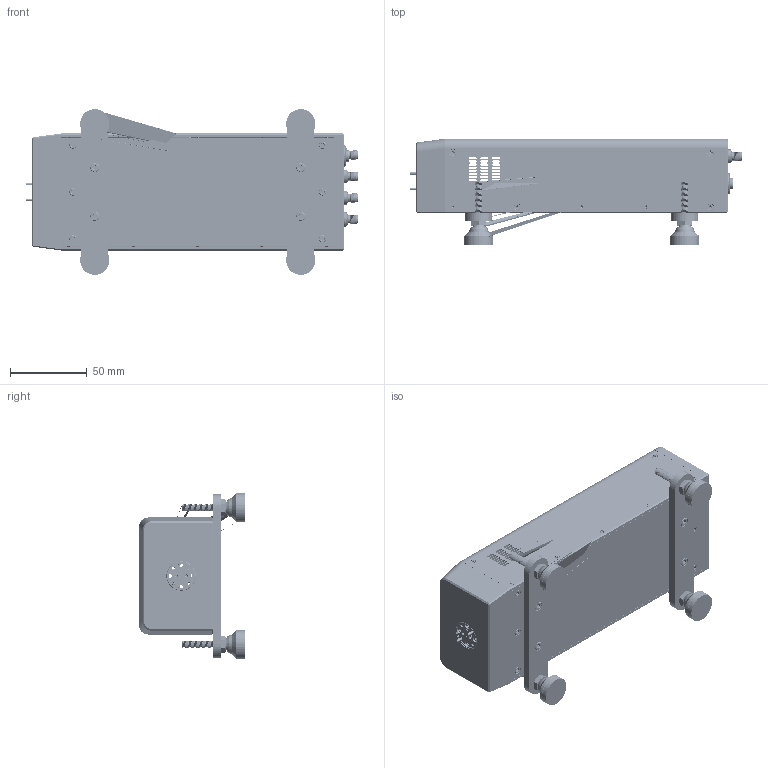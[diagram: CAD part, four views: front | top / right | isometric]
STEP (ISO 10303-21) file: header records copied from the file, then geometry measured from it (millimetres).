
FILE_DESCRIPTION (( 'STEP AP214' ), '1' );
FILE_NAME ('TO-SF-A-2, Defeatured w feet.STEP', '2025-10-06T20:18:53', ( '' ), ( '' ), 'SwSTEP 2.0', 'SolidWorks 2021', '' );
FILE_SCHEMA (( 'AUTOMOTIVE_DESIGN' ));
Length unit declared in the file: inch
Products named in the file (1): TO-SF-A-2, Defeatured w feet
Bounding box: 216.16 x 69.22 x 107.95 mm (x, y, z)
Volume: 235625.5 mm3; surface area: 161239.9 mm2
Topology: 100 solids, 100 shells, 5151 faces, 13632 edges, 8699 vertices
Faces by surface type: cylinder 2417, plane 1358, cone 869, bspline 462, sphere 37, torus 8
Entity records: 324176 total; most frequent: CARTESIAN_POINT 182628, ORIENTED_EDGE 26884, DIRECTION 20585, EDGE_CURVE 13442, VERTEX_POINT 8654, AXIS2_PLACEMENT_3D 7701, EDGE_LOOP 5656, LINE 5183
